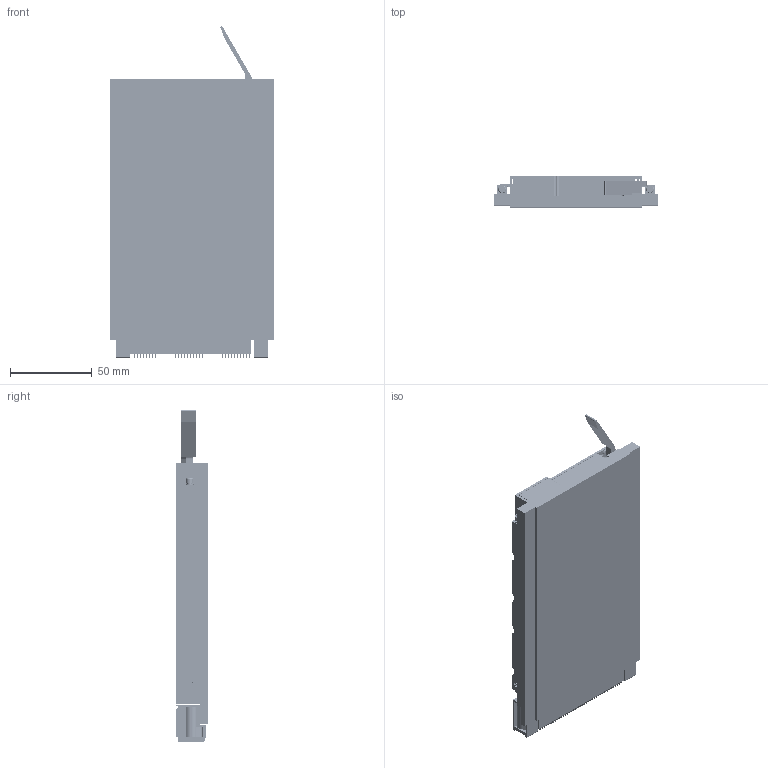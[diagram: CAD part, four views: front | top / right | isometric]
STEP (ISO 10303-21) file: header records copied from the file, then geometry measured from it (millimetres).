
FILE_DESCRIPTION (( 'STEP AP203' ), '1' );
FILE_NAME ('3U-VPX48.2-PS-265HC-82880 OPEN.step', '2018-06-15T21:03:13', ( '' ), ( '' ), 'SwSTEP 2.0', 'SolidWorks 2014', '' );
FILE_SCHEMA (( 'CONFIG_CONTROL_DESIGN' ));
Products named in the file (1): 3U-VPX48.2-PS-265HC-82880 OPEN
Bounding box: 100 x 19.27 x 203.44 mm (x, y, z)
Volume: 255558 mm3; surface area: 218961 mm2
Topology: 300 solids, 300 shells, 21622 faces, 60738 edges, 39383 vertices
Faces by surface type: plane 17808, cylinder 2659, bspline 1000, cone 154, torus 1
Entity records: 738429 total; most frequent: CARTESIAN_POINT 189757, ORIENTED_EDGE 117820, DIRECTION 104560, EDGE_CURVE 58910, VECTOR 50952, LINE 50952, VERTEX_POINT 39383, AXIS2_PLACEMENT_3D 26804
